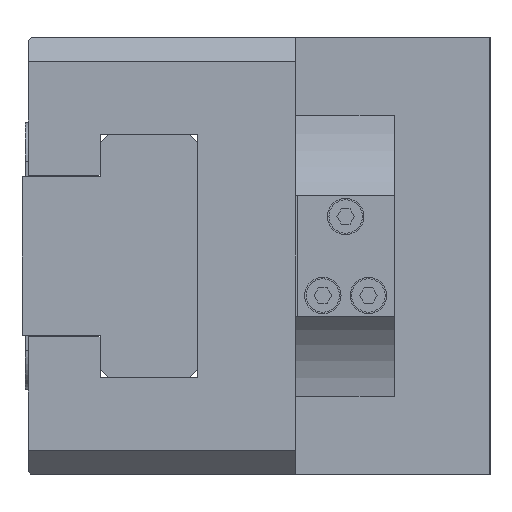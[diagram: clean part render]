
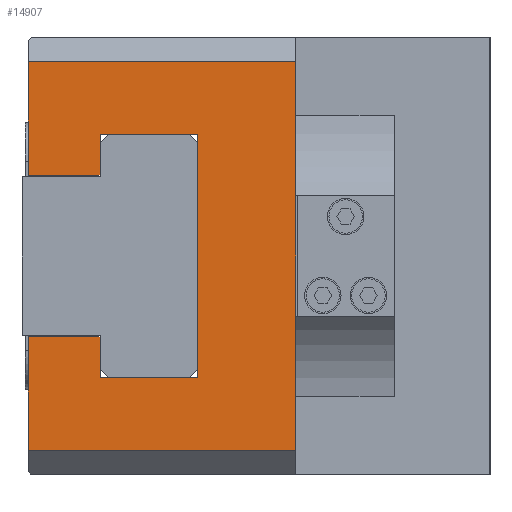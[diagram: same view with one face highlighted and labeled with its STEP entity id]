
A CAD part, left-side view. The second image highlights one B-rep face of the part: STEP entity #14907.
In plain terms, the highlighted planar face has unit normal (-1, 0, 0).
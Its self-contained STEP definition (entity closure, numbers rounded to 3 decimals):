
#191 = CARTESIAN_POINT ( 'NONE',  ( -80., 64.4, 13.25 ) ) ;
#385 = VERTEX_POINT ( 'NONE', #14314 ) ;
#926 = LINE ( 'NONE', #6340, #9992 ) ;
#996 = ORIENTED_EDGE ( 'NONE', *, *, #16453, .T. ) ;
#1048 = EDGE_CURVE ( 'NONE', #5907, #12753, #15962, .T. ) ;
#1068 = CARTESIAN_POINT ( 'NONE',  ( -80., 76., 13.25 ) ) ;
#1204 = VERTEX_POINT ( 'NONE', #14851 ) ;
#1292 = VECTOR ( 'NONE', #3834, 1000. ) ;
#1331 = VECTOR ( 'NONE', #12947, 1000. ) ;
#1335 = CARTESIAN_POINT ( 'NONE',  ( -80., 76., -13.25 ) ) ;
#1534 = CARTESIAN_POINT ( 'NONE',  ( -80., 64.1, -13.55 ) ) ;
#1554 = CARTESIAN_POINT ( 'NONE',  ( -80., 64.1, 13.55 ) ) ;
#1556 = EDGE_CURVE ( 'NONE', #12753, #14811, #5371, .T. ) ;
#1733 = CARTESIAN_POINT ( 'NONE',  ( -80., 64.1, -20. ) ) ;
#2360 = CARTESIAN_POINT ( 'NONE',  ( -80., 64.1, -13.55 ) ) ;
#2482 = CARTESIAN_POINT ( 'NONE',  ( -80., 48.1, -20. ) ) ;
#2563 = VECTOR ( 'NONE', #12603, 1000. ) ;
#2591 = VERTEX_POINT ( 'NONE', #12275 ) ;
#3256 = LINE ( 'NONE', #8951, #15241 ) ;
#3288 = VERTEX_POINT ( 'NONE', #15165 ) ;
#3362 = ORIENTED_EDGE ( 'NONE', *, *, #5965, .F. ) ;
#3585 = VERTEX_POINT ( 'NONE', #6962 ) ;
#3834 = DIRECTION ( 'NONE',  ( 0., 1., 0. ) ) ;
#3837 = CARTESIAN_POINT ( 'NONE',  ( -80., 0., 0. ) ) ;
#4303 = DIRECTION ( 'NONE',  ( 0., 1., 0. ) ) ;
#4333 = DIRECTION ( 'NONE',  ( 0., -1., 0. ) ) ;
#4377 = VERTEX_POINT ( 'NONE', #10136 ) ;
#4684 = LINE ( 'NONE', #2482, #14844 ) ;
#4734 = LINE ( 'NONE', #5096, #1331 ) ;
#4887 = VECTOR ( 'NONE', #16048, 1000. ) ;
#4888 = ORIENTED_EDGE ( 'NONE', *, *, #13845, .F. ) ;
#5096 = CARTESIAN_POINT ( 'NONE',  ( -80., 64.4, -13.25 ) ) ;
#5144 = DIRECTION ( 'NONE',  ( 0., -1., 0. ) ) ;
#5371 = LINE ( 'NONE', #1335, #14747 ) ;
#5440 = VERTEX_POINT ( 'NONE', #1068 ) ;
#5520 = ORIENTED_EDGE ( 'NONE', *, *, #1556, .F. ) ;
#5836 = VERTEX_POINT ( 'NONE', #1554 ) ;
#5871 = LINE ( 'NONE', #15955, #6653 ) ;
#5907 = VERTEX_POINT ( 'NONE', #12271 ) ;
#5965 = EDGE_CURVE ( 'NONE', #5836, #16350, #9431, .T. ) ;
#6006 = LINE ( 'NONE', #1733, #15979 ) ;
#6340 = CARTESIAN_POINT ( 'NONE',  ( -80., 32., 36. ) ) ;
#6653 = VECTOR ( 'NONE', #4303, 1000. ) ;
#6962 = CARTESIAN_POINT ( 'NONE',  ( -80., 76., 32. ) ) ;
#7115 = VERTEX_POINT ( 'NONE', #2360 ) ;
#7146 = ORIENTED_EDGE ( 'NONE', *, *, #9594, .F. ) ;
#7734 = DIRECTION ( 'NONE',  ( 1., 0., 0. ) ) ;
#7735 = LINE ( 'NONE', #12296, #10401 ) ;
#7815 = EDGE_CURVE ( 'NONE', #2591, #1204, #926, .T. ) ;
#8347 = VERTEX_POINT ( 'NONE', #8765 ) ;
#8370 = EDGE_CURVE ( 'NONE', #16350, #5440, #14056, .T. ) ;
#8426 = CARTESIAN_POINT ( 'NONE',  ( -80., 64.1, 13.55 ) ) ;
#8765 = CARTESIAN_POINT ( 'NONE',  ( -80., 64.1, -20. ) ) ;
#8917 = CARTESIAN_POINT ( 'NONE',  ( -80., 76., -36. ) ) ;
#8951 = CARTESIAN_POINT ( 'NONE',  ( -80., 76., 32. ) ) ;
#8997 = AXIS2_PLACEMENT_3D ( 'NONE', #3837, #7734, #12929 ) ;
#9113 = ORIENTED_EDGE ( 'NONE', *, *, #7815, .F. ) ;
#9152 = LINE ( 'NONE', #12266, #4887 ) ;
#9431 = LINE ( 'NONE', #8426, #11915 ) ;
#9594 = EDGE_CURVE ( 'NONE', #3585, #2591, #3256, .T. ) ;
#9846 = DIRECTION ( 'NONE',  ( 0., 0.707, -0.707 ) ) ;
#9912 = CARTESIAN_POINT ( 'NONE',  ( -80., 0., -32. ) ) ;
#9992 = VECTOR ( 'NONE', #12888, 1000. ) ;
#10136 = CARTESIAN_POINT ( 'NONE',  ( -80., 48.1, -20. ) ) ;
#10401 = VECTOR ( 'NONE', #16716, 1000. ) ;
#10561 = CARTESIAN_POINT ( 'NONE',  ( -80., 76., -13.25 ) ) ;
#10644 = DIRECTION ( 'NONE',  ( 0., 0., -1. ) ) ;
#10994 = VECTOR ( 'NONE', #10644, 1000. ) ;
#11915 = VECTOR ( 'NONE', #9846, 1000. ) ;
#12124 = LINE ( 'NONE', #9912, #2563 ) ;
#12189 = EDGE_CURVE ( 'NONE', #3288, #5836, #7735, .T. ) ;
#12241 = ORIENTED_EDGE ( 'NONE', *, *, #1048, .F. ) ;
#12266 = CARTESIAN_POINT ( 'NONE',  ( -80., 76., 13.25 ) ) ;
#12271 = CARTESIAN_POINT ( 'NONE',  ( -80., 76., -32. ) ) ;
#12275 = CARTESIAN_POINT ( 'NONE',  ( -80., 32., 32. ) ) ;
#12296 = CARTESIAN_POINT ( 'NONE',  ( -80., 64.1, 20. ) ) ;
#12304 = ORIENTED_EDGE ( 'NONE', *, *, #16229, .F. ) ;
#12599 = EDGE_CURVE ( 'NONE', #14811, #7115, #4734, .T. ) ;
#12603 = DIRECTION ( 'NONE',  ( 0., -1., 0. ) ) ;
#12733 = ORIENTED_EDGE ( 'NONE', *, *, #12189, .F. ) ;
#12753 = VERTEX_POINT ( 'NONE', #10561 ) ;
#12878 = ORIENTED_EDGE ( 'NONE', *, *, #8370, .F. ) ;
#12888 = DIRECTION ( 'NONE',  ( 0., 0., -1. ) ) ;
#12929 = DIRECTION ( 'NONE',  ( 0., 0., -1. ) ) ;
#12947 = DIRECTION ( 'NONE',  ( 0., -0.707, -0.707 ) ) ;
#13469 = ORIENTED_EDGE ( 'NONE', *, *, #13491, .F. ) ;
#13491 = EDGE_CURVE ( 'NONE', #5440, #3585, #9152, .T. ) ;
#13616 = EDGE_CURVE ( 'NONE', #4377, #385, #4684, .T. ) ;
#13617 = ORIENTED_EDGE ( 'NONE', *, *, #13616, .F. ) ;
#13845 = EDGE_CURVE ( 'NONE', #7115, #8347, #16059, .T. ) ;
#14056 = LINE ( 'NONE', #191, #1292 ) ;
#14076 = PLANE ( 'NONE',  #8997 ) ;
#14177 = DIRECTION ( 'NONE',  ( 0., 0., 1. ) ) ;
#14314 = CARTESIAN_POINT ( 'NONE',  ( -80., 48.1, 20. ) ) ;
#14486 = DIRECTION ( 'NONE',  ( 0., -1., 0. ) ) ;
#14578 = EDGE_CURVE ( 'NONE', #385, #3288, #5871, .T. ) ;
#14595 = FACE_OUTER_BOUND ( 'NONE', #15357, .T. ) ;
#14747 = VECTOR ( 'NONE', #4333, 1000. ) ;
#14766 = CARTESIAN_POINT ( 'NONE',  ( -80., 64.4, 13.25 ) ) ;
#14811 = VERTEX_POINT ( 'NONE', #16588 ) ;
#14844 = VECTOR ( 'NONE', #14177, 1000. ) ;
#14851 = CARTESIAN_POINT ( 'NONE',  ( -80., 32., -32. ) ) ;
#14907 = ADVANCED_FACE ( 'NONE', ( #14595 ), #14076, .F. ) ;
#15165 = CARTESIAN_POINT ( 'NONE',  ( -80., 64.1, 20. ) ) ;
#15241 = VECTOR ( 'NONE', #5144, 1000. ) ;
#15357 = EDGE_LOOP ( 'NONE', ( #12241, #996, #9113, #7146, #13469, #12878, #3362, #12733, #16648, #13617, #12304, #4888, #16289, #5520 ) ) ;
#15955 = CARTESIAN_POINT ( 'NONE',  ( -80., 48.1, 20. ) ) ;
#15962 = LINE ( 'NONE', #8917, #16183 ) ;
#15979 = VECTOR ( 'NONE', #14486, 1000. ) ;
#16048 = DIRECTION ( 'NONE',  ( 0., 0., 1. ) ) ;
#16059 = LINE ( 'NONE', #1534, #10994 ) ;
#16183 = VECTOR ( 'NONE', #16788, 1000. ) ;
#16229 = EDGE_CURVE ( 'NONE', #8347, #4377, #6006, .T. ) ;
#16289 = ORIENTED_EDGE ( 'NONE', *, *, #12599, .F. ) ;
#16350 = VERTEX_POINT ( 'NONE', #14766 ) ;
#16453 = EDGE_CURVE ( 'NONE', #5907, #1204, #12124, .T. ) ;
#16588 = CARTESIAN_POINT ( 'NONE',  ( -80., 64.4, -13.25 ) ) ;
#16648 = ORIENTED_EDGE ( 'NONE', *, *, #14578, .F. ) ;
#16716 = DIRECTION ( 'NONE',  ( 0., 0., -1. ) ) ;
#16788 = DIRECTION ( 'NONE',  ( 0., 0., 1. ) ) ;
